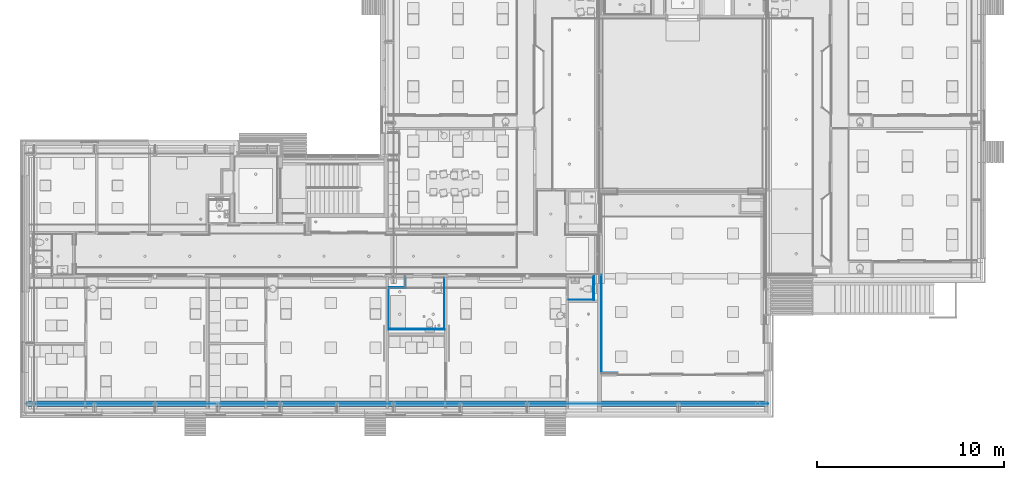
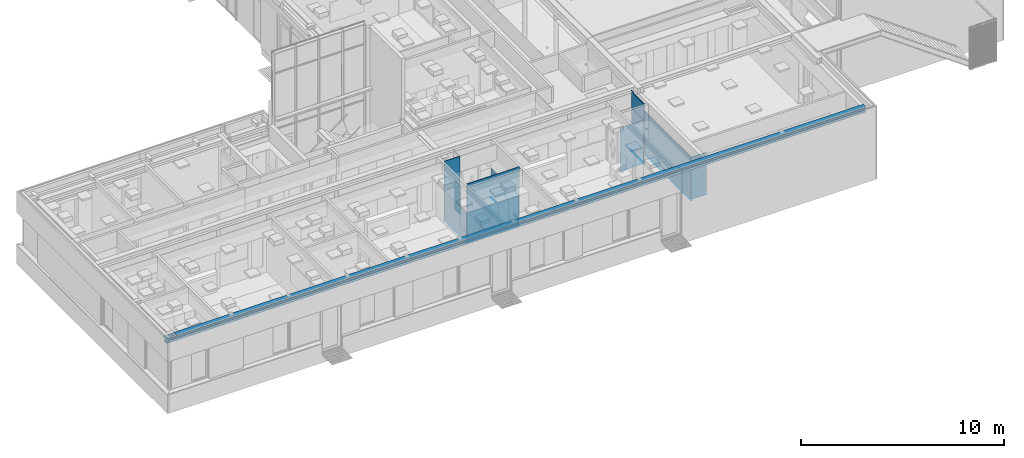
# One storey, part 99 of 347: 24 building element parts, 13 elements without a shape of their own.
"""IFC2X3 building model written with IfcOpenShell, lengths in millimetres."""

from ifc_helpers import new_model, entity, si_unit, converted_unit, derived_unit, money_unit, direction, frame, origin_with_axes, place, context, subcontext, project, spatial, faceted_brep, material, type_object, element, aggregate, save


model = new_model("IFC2X3")

# Units and contexts
model_context = context("Model", 3, precision=0.01, world=origin_with_axes(), true_north=direction((0.0, 1.0)))
plan_context = context("Plan", 3, precision=0.01, world=origin_with_axes(), true_north=direction((0.0, 1.0)))
body_context = subcontext(model_context, "Body", "Model", "MODEL_VIEW")
ifc_project = project(units=[si_unit("LENGTHUNIT", "METRE", prefix="MILLI"), si_unit("AREAUNIT", "SQUARE_METRE"), si_unit("VOLUMEUNIT", "CUBIC_METRE"), converted_unit("PLANEANGLEUNIT", "DEGREE", entity("IfcPlaneAngleMeasure", 0.0174532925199), si_unit("PLANEANGLEUNIT", "RADIAN"), dimensions=[0, 0, 0, 0, 0, 0, 0]), money_unit("EUR"), converted_unit("TIMEUNIT", "Year", entity("IfcTimeMeasure", 31556926.0), si_unit("TIMEUNIT", "SECOND"), dimensions=[0, 0, 1, 0, 0, 0, 0]), si_unit("MASSUNIT", "GRAM", prefix="KILO"), si_unit("THERMODYNAMICTEMPERATUREUNIT", "DEGREE_CELSIUS"), si_unit("LUMINOUSINTENSITYUNIT", "LUMEN"), si_unit("ENERGYUNIT", "JOULE", prefix="MEGA"), derived_unit("THERMALCONDUCTANCEUNIT", [(si_unit("POWERUNIT", "WATT"), 1), (si_unit("LENGTHUNIT", "METRE"), -1), (si_unit("THERMODYNAMICTEMPERATUREUNIT", "KELVIN"), -1)]), derived_unit("SPECIFICHEATCAPACITYUNIT", [(si_unit("ENERGYUNIT", "JOULE"), 1), (si_unit("MASSUNIT", "GRAM", prefix="KILO"), -1), (si_unit("THERMODYNAMICTEMPERATUREUNIT", "KELVIN"), -1)]), derived_unit("MASSDENSITYUNIT", [(si_unit("MASSUNIT", "GRAM", prefix="KILO"), 1), (si_unit("VOLUMEUNIT", "CUBIC_METRE"), -1)])], contexts=[model_context, plan_context])

# Site, building, storey
site_placement = place(None, origin_with_axes())
site = spatial("IfcSite", under=ifc_project, at=site_placement, Name="Site", CompositionType="ELEMENT")
building_placement = place(site_placement, origin_with_axes())
building = spatial("IfcBuilding", under=site, at=building_placement, Name="Naam gebouw", CompositionType="ELEMENT")
storey_placement = place(building_placement, origin_with_axes())
storey = spatial("IfcBuildingStorey", under=building, at=storey_placement, Name="begane grond", CompositionType="ELEMENT", Elevation=0.0)

# Wall, building element parts
wall_type = type_object("IfcWallType", Name="ALG LSW sanitair 100", PredefinedType="NOTDEFINED")
wall_1_placement = place(storey_placement, frame((35295.0, 10850.0, 0.0), z_axis=(0.0, 0.0, 1.0), x_axis=(0.0, 1.0, 0.0)))
wall_1 = element("IfcWall", 1, at=wall_1_placement, inside=storey, type_object=wall_type, Name="22_GF 100 ECO RD V/75.2.A")
ifc_material_1 = material(Name="ALG - LICHTE SCHEIDINGSWAND AFW")
building_element_part_1_placement = place(wall_1_placement, origin_with_axes())
building_element_part_1 = element("IfcBuildingElementPart", 2, at=building_element_part_1_placement, material=ifc_material_1, Name="ALG - LICHTE SCHEIDINGSWAND AFW", context=body_context, shape_type="Brep", body=[
    faceted_brep([(1105.0, 0.0, 3630.0), (1105.0, -12.0, 3630.0), (1275.0, -12.0, 3630.0), (1275.0, 0.0, 3630.0), (1105.0, -12.0, 3560.0), (1105.0, 0.0, 3560.0), (0.0, -12.0, 3560.0), (0.0, -12.0, 0.0), (1212.5, -12.0, 0.0), (1212.5, -12.0, 3560.0), (1275.0, -12.0, 3560.0), (1275.0, 0.0, 3560.0), (1212.5, 0.0, 3560.0), (1212.5, 0.0, 0.0), (0.0, 0.0, 0.0), (0.0, 0.0, 3560.0)], [[[0, 1, 2, 3]], [[4, 1, 0, 5]], [[4, 6, 7, 8, 9, 10, 2, 1]], [[2, 10, 11, 3]], [[5, 0, 3, 11, 12, 13, 14, 15]], [[6, 4, 5, 15]], [[6, 15, 14, 7]], [[8, 7, 14, 13]], [[12, 9, 8, 13]], [[12, 11, 10, 9]]]),
])
ifc_material_2 = material(Name="Hout - Multiplex wbp")
building_element_part_2_placement = place(wall_1_placement, origin_with_axes())
building_element_part_2 = element("IfcBuildingElementPart", 3, at=building_element_part_2_placement, material=ifc_material_2, Name="Hout - Multiplex wbp", context=body_context, shape_type="Brep", body=[
    faceted_brep([(1105.0, -12.0, 3630.0), (1105.0, -30.0, 3630.0), (1275.0, -30.0, 3630.0), (1275.0, -12.0, 3630.0), (1105.0, -30.0, 3560.0), (1105.0, -12.0, 3560.0), (0.0, -30.0, 3560.0), (0.0, -30.0, 0.0), (1212.5, -30.0, 0.0), (1212.5, -30.0, 3560.0), (1275.0, -30.0, 3560.0), (1275.0, -12.0, 3560.0), (1212.5, -12.0, 3560.0), (1212.5, -12.0, 0.0), (0.0, -12.0, 0.0), (0.0, -12.0, 3560.0)], [[[0, 1, 2, 3]], [[4, 1, 0, 5]], [[4, 6, 7, 8, 9, 10, 2, 1]], [[2, 10, 11, 3]], [[5, 0, 3, 11, 12, 13, 14, 15]], [[6, 4, 5, 15]], [[6, 15, 14, 7]], [[8, 7, 14, 13]], [[12, 9, 8, 13]], [[12, 11, 10, 9]]]),
])
aggregate(wall_1, [building_element_part_1, building_element_part_2])

wall_2_placement = place(storey_placement, frame((24175.0, 9290.0, 0.0), z_axis=(0.0, 0.0, 1.0), x_axis=(1.0, 0.0, 0.0)))
wall_2 = element("IfcWall", 4, at=wall_2_placement, inside=storey, type_object=wall_type, Name="22_GF 100 ECO RD V/75.2.A")
building_element_part_3_placement = place(wall_2_placement, origin_with_axes())
building_element_part_3 = element("IfcBuildingElementPart", 5, at=building_element_part_3_placement, material=ifc_material_1, Name="ALG - LICHTE SCHEIDINGSWAND AFW", context=body_context, shape_type="Brep", body=[
    faceted_brep([(3125.0, 0.0, 3560.0), (125.0, 0.0, 3560.0), (125.0, -12.0, 3560.0), (3125.0, -12.0, 3560.0), (3125.0, 0.0, 0.0), (125.0, 0.0, 0.0), (125.0, -12.0, 0.0), (3125.0, -12.0, 0.0)], [[[0, 1, 2, 3]], [[4, 5, 1, 0]], [[2, 1, 5, 6]], [[3, 2, 6, 7]], [[3, 7, 4, 0]], [[7, 6, 5, 4]]]),
])
building_element_part_4_placement = place(wall_2_placement, origin_with_axes())
building_element_part_4 = element("IfcBuildingElementPart", 6, at=building_element_part_4_placement, material=ifc_material_2, Name="Hout - Multiplex wbp", context=body_context, shape_type="Brep", body=[
    faceted_brep([(3125.0, -12.0, 3560.0), (125.0, -12.0, 3560.0), (125.0, -30.0, 3560.0), (3125.0, -30.0, 3560.0), (3125.0, -12.0, 0.0), (125.0, -12.0, 0.0), (125.0, -30.0, 0.0), (3125.0, -30.0, 0.0)], [[[0, 1, 2, 3]], [[4, 5, 1, 0]], [[2, 1, 5, 6]], [[3, 2, 6, 7]], [[3, 7, 4, 0]], [[7, 6, 5, 4]]]),
])
aggregate(wall_2, [building_element_part_3, building_element_part_4])

# Beam, building element parts
beam_type = type_object("IfcBeamType", Name="28 HEB300 300 x 300", PredefinedType="BEAM")
beam_placement = place(storey_placement, frame((4850.0, 5300.0, 3560.00001859), z_axis=(0.0, 0.0, 1.0), x_axis=(0.0, -1.0, 0.0)))
beam = element("IfcBeam", 7, at=beam_placement, inside=storey, type_object=beam_type, Name="28_Balk-x", ObjectType="BEAM")
ifc_material_3 = material(Name="Metaal - Staal C")
building_element_part_5_placement = place(beam_placement, origin_with_axes())
building_element_part_5 = element("IfcBuildingElementPart", 8, at=building_element_part_5_placement, material=ifc_material_3, Name="Metaal - Staal C", context=body_context, shape_type="Brep", body=[
    faceted_brep([(-150.0, 310.0, -1.73937362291e-05), (-150.0, 310.0, -15.000020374), (-150.0, 444.75, -15.000020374), (-150.0, 444.75, -19.0), (-150.0, 0.0, -19.0), (-150.0, 0.0, 0.0), (150.0, 310.0, -1.73937362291e-05), (150.0, 310.0, -15.000020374), (150.0, 444.75, -15.000020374), (150.0, 444.75, -19.0), (5.5, 444.75, -19.0), (-5.5, 444.75, -19.0), (-5.5, 0.0, -19.0), (5.5, 0.0, -19.0), (150.0, 0.0, -19.0), (150.0, 0.0, 0.0)], [[[0, 1, 2, 3, 4, 5]], [[1, 0, 6, 7]], [[8, 2, 1, 7]], [[2, 8, 9, 10, 11, 3]], [[3, 11, 12, 4]], [[5, 4, 12, 13, 14, 15]], [[6, 0, 5, 15]], [[7, 6, 15, 14, 9, 8]], [[10, 9, 14, 13]], [[11, 10, 13, 12]]]),
    faceted_brep([(-150.0, 455.25, -15.000020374), (-150.0, 590.0, -15.000020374), (-150.0, 590.0, -1.73937362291e-05), (-150.0, 39805.0012409, 0.0), (-150.0, 39805.0012409, -19.0), (-150.0, 455.25, -19.0), (150.0, 455.25, -15.000020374), (150.0, 590.0, -15.000020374), (150.0, 590.0, -1.73937362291e-05), (150.0, 39805.0012409, 0.0), (-5.5, 39805.0012409, -19.0), (150.0, 39805.0012409, -19.0), (5.5, 39805.0012409, -19.0), (-5.5, 455.25, -19.0), (5.5, 455.25, -19.0), (150.0, 455.25, -19.0)], [[[0, 1, 2, 3, 4, 5]], [[1, 0, 6, 7]], [[8, 2, 1, 7]], [[2, 8, 9, 3]], [[10, 4, 3, 9, 11, 12]], [[13, 5, 4, 10]], [[6, 0, 5, 13, 14, 15]], [[7, 6, 15, 11, 9, 8]], [[15, 14, 12, 11]], [[14, 13, 10, 12]]]),
])
building_element_part_6_placement = place(beam_placement, origin_with_axes())
building_element_part_6 = element("IfcBuildingElementPart", 9, at=building_element_part_6_placement, material=ifc_material_3, Name="Metaal - Staal C", context=body_context, shape_type="Brep", body=[
    faceted_brep([(-150.0, 39805.0012409, -281.0), (-150.0, 39805.0012409, -300.0), (-150.0, 0.0, -300.0), (-150.0, 0.0, -281.0), (-5.5, 39805.0012409, -281.0), (5.5, 39805.0012409, -281.0), (150.0, 39805.0012409, -281.0), (150.0, 39805.0012409, -300.0), (150.0, 0.0, -300.0), (150.0, 0.0, -281.0), (5.5, 0.0, -281.0), (-5.5, 0.0, -281.0)], [[[0, 1, 2, 3]], [[0, 4, 5, 6, 7, 1]], [[1, 7, 8, 2]], [[3, 2, 8, 9, 10, 11]], [[4, 0, 3, 11]], [[5, 4, 11, 10]], [[6, 5, 10, 9]], [[7, 6, 9, 8]]]),
])
building_element_part_7_placement = place(beam_placement, origin_with_axes())
building_element_part_7 = element("IfcBuildingElementPart", 10, at=building_element_part_7_placement, material=ifc_material_3, Name="Metaal - Staal C", context=body_context, shape_type="Brep", body=[
    faceted_brep([(-5.5, 310.0, -280.000018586), (-5.5, 590.0, -280.000018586), (-5.5, 590.0, -265.000019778), (-5.5, 455.25, -265.000019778), (-5.5, 455.25, -19.0), (-5.5, 39805.0012409, -19.0), (-5.5, 39805.0012409, -281.0), (-5.5, 0.0, -281.0), (-5.5, 0.0, -19.0), (-5.5, 444.75, -19.0), (-5.5, 444.75, -265.000019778), (-5.5, 310.0, -265.000019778), (5.5, 310.0, -280.000018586), (5.5, 590.0, -280.000018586), (5.5, 590.0, -265.000019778), (5.5, 455.25, -265.000019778), (5.5, 455.25, -19.0), (5.5, 39805.0012409, -19.0), (5.5, 39805.0012409, -281.0), (5.5, 0.0, -281.0), (5.5, 0.0, -19.0), (5.5, 444.75, -19.0), (5.5, 444.75, -265.000019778), (5.5, 310.0, -265.000019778)], [[[0, 1, 2, 3, 4, 5, 6, 7, 8, 9, 10, 11]], [[1, 0, 12, 13]], [[2, 1, 13, 14]], [[3, 2, 14, 15]], [[3, 15, 16, 4]], [[4, 16, 17, 5]], [[18, 6, 5, 17]], [[7, 6, 18, 19]], [[8, 7, 19, 20]], [[21, 9, 8, 20]], [[22, 10, 9, 21]], [[11, 10, 22, 23]], [[0, 11, 23, 12]], [[23, 22, 21, 20, 19, 18, 17, 16, 15, 14, 13, 12]]]),
])
aggregate(beam, [building_element_part_5, building_element_part_6, building_element_part_7])

# Proxy, building element parts
building_element_proxy_type_1 = type_object("IfcBuildingElementProxyType", Name="wandtegels 150x300 2600+ 10 x 2600", PredefinedType="NOTDEFINED")
proxy_1_placement = place(storey_placement, frame((35285.0, 10860.0, 0.0), z_axis=(0.0, 0.0, 1.0), x_axis=(0.0, 1.0, 0.0)))
proxy_1 = element("IfcBuildingElementProxy", 11, at=proxy_1_placement, inside=storey, type_object=building_element_proxy_type_1, Name="42_59 wandtegels keramisch")
ifc_material_4 = material(Name="48 vloeivloer Bolidt")
building_element_part_8_placement = place(proxy_1_placement, origin_with_axes())
building_element_part_8 = element("IfcBuildingElementPart", 12, at=building_element_part_8_placement, material=ifc_material_4, Name="48 vloeivloer Bolidt", context=body_context, shape_type="Brep", body=[
    faceted_brep([(10.0000089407, 10.0000089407, 50.0000059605), (10.0000089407, 8.00001490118, 50.0000059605), (1184.49999702, 8.00001490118, 50.0000059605), (1184.49999702, 10.0000089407, 50.0000059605), (10.0000089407, 8.00001490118, 0.0), (10.0000089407, 10.0000089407, 0.0), (1184.49999702, 8.00001490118, 0.0), (1184.49999702, 10.0000089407, 0.0)], [[[0, 1, 2, 3]], [[4, 1, 0, 5]], [[1, 4, 6, 2]], [[7, 3, 2, 6]], [[5, 0, 3, 7]], [[4, 5, 7, 6]]]),
])
ifc_material_5 = material(Name="Tegels - Wand")
building_element_part_9_placement = place(proxy_1_placement, origin_with_axes())
building_element_part_9 = element("IfcBuildingElementPart", 13, at=building_element_part_9_placement, material=ifc_material_5, Name="Tegels - Wand", context=body_context, shape_type="Brep", body=[
    faceted_brep([(10.0, 10.0, 2600.0), (10.0, 0.0, 2600.0), (1192.50001192, 0.0, 2600.0), (1192.50001192, 10.0, 2600.0), (10.0, 0.0, 50.0), (10.0, 10.0, 50.0), (10.0, 8.00001490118, 50.0), (1192.50001192, 0.0, 50.0000059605), (1192.50001192, 10.0, 50.0000059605), (1192.50001192, 8.00001490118, 50.0000059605)], [[[0, 1, 2, 3]], [[4, 1, 0, 5, 6]], [[1, 4, 7, 2]], [[8, 3, 2, 7, 9]], [[5, 0, 3, 8]], [[6, 5, 8, 9]], [[4, 6, 9, 7]]]),
])
aggregate(proxy_1, [building_element_part_8, building_element_part_9])

proxy_2_placement = place(storey_placement, frame((33950.0, 10860.0, 0.0), z_axis=(0.0, 0.0, 1.0), x_axis=(1.0, 0.0, 0.0)))
proxy_2 = element("IfcBuildingElementProxy", 14, at=proxy_2_placement, inside=storey, type_object=building_element_proxy_type_1, Name="42_58 wandtegels keramisch")
building_element_part_10_placement = place(proxy_2_placement, origin_with_axes())
building_element_part_10 = element("IfcBuildingElementPart", 15, at=building_element_part_10_placement, material=ifc_material_4, Name="48 vloeivloer Bolidt", context=body_context, shape_type="Brep", body=[
    faceted_brep([(1326.99999702, 8.00001490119, 50.0000059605), (1326.99999702, 10.0000089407, 50.0000059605), (0.0, 10.0000089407, 50.0000059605), (0.0, 8.00001490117, 50.0000059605), (1326.99999702, 10.0000089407, 0.0), (1326.99999702, 8.00001490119, 0.0), (0.0, 10.0000089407, 0.0), (0.0, 8.00001490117, 0.0)], [[[0, 1, 2, 3]], [[4, 1, 0, 5]], [[1, 4, 6, 2]], [[2, 6, 7, 3]], [[5, 0, 3, 7]], [[4, 5, 7, 6]]]),
])
building_element_part_11_placement = place(proxy_2_placement, origin_with_axes())
building_element_part_11 = element("IfcBuildingElementPart", 16, at=building_element_part_11_placement, material=ifc_material_5, Name="Tegels - Wand", context=body_context, shape_type="Brep", body=[
    faceted_brep([(1335.00001192, 0.0, 2600.0), (1335.00001192, 10.0, 2600.0), (0.0, 10.0, 2600.0), (0.0, 0.0, 2600.0), (1335.00001192, 10.0, 50.0000059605), (1335.00001192, 0.0, 50.0000059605), (1335.00001192, 8.00001490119, 50.0000059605), (0.0, 10.0, 50.0), (0.0, 0.0, 50.0), (0.0, 8.00001490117, 50.0000059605)], [[[0, 1, 2, 3]], [[4, 1, 0, 5, 6]], [[1, 4, 7, 2]], [[8, 3, 2, 7, 9]], [[5, 0, 3, 8]], [[6, 5, 8, 9]], [[4, 6, 9, 7]]]),
])
aggregate(proxy_2, [building_element_part_10, building_element_part_11])

building_element_proxy_type_2 = type_object("IfcBuildingElementProxyType", Name="wandtegels 150x300 1800+ 10 x 1800", PredefinedType="NOTDEFINED")
proxy_3_placement = place(storey_placement, frame((27290.0, 9300.0, 0.0), z_axis=(0.0, 0.0, 1.0), x_axis=(0.0, 1.0, 0.0)))
proxy_3 = element("IfcBuildingElementProxy", 17, at=proxy_3_placement, inside=storey, type_object=building_element_proxy_type_2, Name="42_61 wandtegels keramisch")
building_element_part_12_placement = place(proxy_3_placement, origin_with_axes())
building_element_part_12 = element("IfcBuildingElementPart", 18, at=building_element_part_12_placement, material=ifc_material_4, Name="48 vloeivloer Bolidt", context=body_context, shape_type="Brep", body=[
    faceted_brep([(10.0000069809, 10.0000069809, 49.9999904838), (10.0000069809, 7.99998912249, 49.9999904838), (2744.50000671, 7.99998912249, 49.9999904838), (2744.50000671, 10.0000069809, 49.9999904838), (10.0000069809, 7.99998912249, 0.0), (10.0000069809, 10.0000069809, 0.0), (2744.50000671, 7.99998912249, 0.0), (2744.50000671, 10.0000069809, 0.0)], [[[0, 1, 2, 3]], [[4, 1, 0, 5]], [[1, 4, 6, 2]], [[7, 3, 2, 6]], [[5, 0, 3, 7]], [[4, 5, 7, 6]]]),
])
building_element_part_13_placement = place(proxy_3_placement, origin_with_axes())
building_element_part_13 = element("IfcBuildingElementPart", 19, at=building_element_part_13_placement, material=ifc_material_5, Name="Tegels - Wand", context=body_context, shape_type="Brep", body=[
    faceted_brep([(10.0000071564, 10.0000071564, 1799.99997928), (10.0000071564, -1.84472881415e-06, 1799.99997928), (2752.49999767, -1.84472881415e-06, 1799.99997928), (2752.49999767, 10.0000071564, 1799.99997928), (10.0000071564, -1.84472881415e-06, 50.0), (10.0000071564, 10.0000071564, 50.0), (10.0000071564, 7.99998912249, 50.0), (2752.49999767, -1.84472881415e-06, 49.9999904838), (2752.49999767, 7.99998912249, 49.9999904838), (2752.49999767, 10.0000071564, 49.9999904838)], [[[0, 1, 2, 3]], [[4, 1, 0, 5, 6]], [[1, 4, 7, 2]], [[7, 8, 9, 3, 2]], [[5, 0, 3, 9]], [[6, 5, 9, 8]], [[4, 6, 8, 7]]]),
])
aggregate(proxy_3, [building_element_part_12, building_element_part_13])

proxy_4_placement = place(storey_placement, frame((24310.0000066, 9300.0, 0.0), z_axis=(0.0, 0.0, 1.0), x_axis=(1.0, 0.0, 0.0)))
proxy_4 = element("IfcBuildingElementProxy", 20, at=proxy_4_placement, inside=storey, type_object=building_element_proxy_type_2, Name="42_60 wandtegels keramisch")
building_element_part_14_placement = place(proxy_4_placement, origin_with_axes())
building_element_part_14 = element("IfcBuildingElementPart", 21, at=building_element_part_14_placement, material=ifc_material_4, Name="48 vloeivloer Bolidt", context=body_context, shape_type="Brep", body=[
    faceted_brep([(10.0000069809, 10.0000069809, 0.0), (10.0000069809, 10.0000069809, 49.9999904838), (2972.00001208, 10.0000069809, 49.9999904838), (2972.00001208, 10.0000069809, 0.0), (10.0000069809, 7.99998912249, 49.9999904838), (10.0000069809, 7.99998912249, 0.0), (2972.00001208, 7.99998912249, 49.9999904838), (2972.00001208, 7.99998912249, 0.0)], [[[0, 1, 2, 3]], [[4, 1, 0, 5]], [[1, 4, 6, 2]], [[7, 3, 2, 6]], [[5, 0, 3, 7]], [[4, 5, 7, 6]]]),
])
building_element_part_15_placement = place(proxy_4_placement, origin_with_axes())
building_element_part_15 = element("IfcBuildingElementPart", 22, at=building_element_part_15_placement, material=ifc_material_5, Name="Tegels - Wand", context=body_context, shape_type="Brep", body=[
    faceted_brep([(10.0000071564, 10.0000071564, 50.0), (10.0000071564, 10.0000071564, 1799.99997928), (2980.00000305, 10.0000071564, 1799.99997928), (2980.00000305, 10.0000071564, 49.9999904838), (10.0000071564, -1.84472881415e-06, 1799.99997928), (10.0000071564, 7.99998912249, 50.0), (10.0000071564, -1.84472881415e-06, 50.0), (2980.00000305, -1.84472881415e-06, 1799.99997928), (2980.00000305, -1.84472881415e-06, 49.9999904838), (2980.00000305, 7.99998912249, 49.9999904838)], [[[0, 1, 2, 3]], [[4, 1, 0, 5, 6]], [[1, 4, 7, 2]], [[7, 8, 9, 3, 2]], [[5, 0, 3, 9]], [[6, 5, 9, 8]], [[4, 6, 8, 7]]]),
])
aggregate(proxy_4, [building_element_part_14, building_element_part_15])

proxy_5_placement = place(storey_placement, frame((24310.0000066, 11489.9999515, 0.0), z_axis=(0.0, 0.0, 1.0), x_axis=(0.0, -1.0, 0.0)))
proxy_5 = element("IfcBuildingElementProxy", 23, at=proxy_5_placement, inside=storey, type_object=building_element_proxy_type_2, Name="42_59 wandtegels keramisch")
building_element_part_16_placement = place(proxy_5_placement, origin_with_axes())
building_element_part_16 = element("IfcBuildingElementPart", 24, at=building_element_part_16_placement, material=ifc_material_4, Name="48 vloeivloer Bolidt", context=body_context, shape_type="Brep", body=[
    faceted_brep([(10.0000069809, 10.0000069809, 0.0), (10.0000069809, 10.0000069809, 49.9999904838), (2181.99997017, 10.0000069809, 49.9999904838), (2181.99997017, 10.0000069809, 0.0), (10.0000069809, 7.99998912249, 49.9999904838), (10.0000069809, 7.99998912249, 0.0), (2181.99997017, 7.99998912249, 49.9999904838), (2181.99997017, 7.99998912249, 0.0)], [[[0, 1, 2, 3]], [[4, 1, 0, 5]], [[1, 4, 6, 2]], [[7, 3, 2, 6]], [[5, 0, 3, 7]], [[4, 5, 7, 6]]]),
])
building_element_part_17_placement = place(proxy_5_placement, origin_with_axes())
building_element_part_17 = element("IfcBuildingElementPart", 25, at=building_element_part_17_placement, material=ifc_material_5, Name="Tegels - Wand", context=body_context, shape_type="Brep", body=[
    faceted_brep([(10.0000071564, 10.0000071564, 50.0), (10.0000071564, 10.0000071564, 1799.99997928), (2189.99996114, 10.0000071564, 1799.99997928), (2189.99996114, 10.0000071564, 49.9999904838), (10.0000071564, -1.84472881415e-06, 1799.99997928), (10.0000071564, 7.99998912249, 50.0), (10.0000071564, -1.84472881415e-06, 50.0), (2189.99996114, -1.84472881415e-06, 1799.99997928), (2189.99996114, -1.84472881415e-06, 49.9999904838), (2189.99996114, 7.99998912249, 49.9999904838)], [[[0, 1, 2, 3]], [[4, 1, 0, 5, 6]], [[1, 4, 7, 2]], [[7, 8, 9, 3, 2]], [[5, 0, 3, 9]], [[6, 5, 9, 8]], [[4, 6, 8, 7]]]),
])
aggregate(proxy_5, [building_element_part_16, building_element_part_17])

# Proxy, building element part
proxy_6_placement = place(storey_placement, frame((25210.0000046, 11489.9999515, 0.0), z_axis=(0.0, 0.0, 1.0), x_axis=(-1.0, 0.0, 0.0)))
proxy_6 = element("IfcBuildingElementProxy", 26, at=proxy_6_placement, inside=storey, type_object=building_element_proxy_type_2, Name="42_58 wandtegels keramisch")
building_element_part_18_placement = place(proxy_6_placement, origin_with_axes())
building_element_part_18 = element("IfcBuildingElementPart", 27, at=building_element_part_18_placement, material=ifc_material_5, Name="Tegels - Wand", context=body_context, shape_type="Brep", body=[
    faceted_brep([(1.84472881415e-06, 10.0000071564, 1799.99997928), (1.84472881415e-06, -1.84472881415e-06, 1799.99997928), (900.000007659, -1.84472881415e-06, 1799.99997928), (900.000007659, 10.0000071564, 1799.99997928), (1.84472881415e-06, -1.84472881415e-06, 50.0), (1.84472881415e-06, 10.0000071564, 50.0), (1.84472881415e-06, 7.99998912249, 50.0), (900.000007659, -1.84472881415e-06, 49.9999904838), (900.000007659, 10.0000071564, 49.9999904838), (900.000007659, 7.99998912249, 49.9999904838)], [[[0, 1, 2, 3]], [[4, 1, 0, 5, 6]], [[1, 4, 7, 2]], [[8, 3, 2, 7, 9]], [[5, 0, 3, 8]], [[6, 5, 8, 9]], [[4, 6, 9, 7]]]),
])
aggregate(proxy_6, [building_element_part_18])

proxy_7_placement = place(storey_placement, frame((25210.0000046, 12052.499988, 0.0), z_axis=(0.0, 0.0, 1.0), x_axis=(0.0, -1.0, 0.0)))
proxy_7 = element("IfcBuildingElementProxy", 28, at=proxy_7_placement, inside=storey, type_object=building_element_proxy_type_2, Name="42_57 wandtegels keramisch")
building_element_part_19_placement = place(proxy_7_placement, origin_with_axes())
building_element_part_19 = element("IfcBuildingElementPart", 29, at=building_element_part_19_placement, material=ifc_material_5, Name="Tegels - Wand", context=body_context, shape_type="Brep", body=[
    faceted_brep([(10.0000071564, 10.0000071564, 50.0), (10.0000071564, 10.0000071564, 1799.99997928), (572.500035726, 10.0000071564, 1799.99997928), (572.500035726, 10.0000071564, 49.9999904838), (10.0000071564, -1.84472881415e-06, 1799.99997928), (10.0000071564, 7.99998912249, 50.0), (10.0000071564, -1.84472881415e-06, 50.0), (572.500035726, -1.84472881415e-06, 1799.99997928), (572.500035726, 7.99998912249, 49.9999904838), (572.500035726, -1.84472881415e-06, 49.9999904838)], [[[0, 1, 2, 3]], [[4, 1, 0, 5, 6]], [[1, 4, 7, 2]], [[8, 3, 2, 7, 9]], [[5, 0, 3, 8]], [[6, 5, 8, 9]], [[4, 6, 9, 7]]]),
])
aggregate(proxy_7, [building_element_part_19])

# Wall, building element parts
wall_3_placement = place(storey_placement, frame((24300.0, 11599.999972, 0.0), z_axis=(0.0, 0.0, 1.0), x_axis=(1.0, 0.0, 0.0)))
wall_3 = element("IfcWall", 30, at=wall_3_placement, inside=storey, type_object=wall_type, Name="22_GF 100 ECO RD V/75.2.A")
building_element_part_20_placement = place(wall_3_placement, origin_with_axes())
building_element_part_20 = element("IfcBuildingElementPart", 31, at=building_element_part_20_placement, material=ifc_material_2, Name="Hout - Multiplex wbp", context=body_context, shape_type="Brep", body=[
    faceted_brep([(0.0, -70.0, 3560.0), (888.0, -70.0, 3560.0), (888.0, -70.0, 0.0), (0.0, -70.0, 0.0), (888.0, -88.0, 3560.0), (0.0, -88.0, 3560.0), (888.0, -88.0, 0.0), (0.0, -88.0, 0.0)], [[[0, 1, 2, 3]], [[4, 1, 0, 5]], [[1, 4, 6, 2]], [[2, 6, 7, 3]], [[5, 0, 3, 7]], [[4, 5, 7, 6]]]),
])
building_element_part_21_placement = place(wall_3_placement, origin_with_axes())
building_element_part_21 = element("IfcBuildingElementPart", 32, at=building_element_part_21_placement, material=ifc_material_1, Name="ALG - LICHTE SCHEIDINGSWAND AFW", context=body_context, shape_type="Brep", body=[
    faceted_brep([(0.0, -88.0, 3560.0), (900.0, -88.0, 3560.0), (900.0, -88.0, 0.0), (0.0, -88.0, 0.0), (900.0, -100.0, 3560.0), (0.0, -100.0, 3560.0), (900.0, -100.0, 0.0), (0.0, -100.0, 0.0)], [[[0, 1, 2, 3]], [[4, 1, 0, 5]], [[1, 4, 6, 2]], [[2, 6, 7, 3]], [[5, 0, 3, 7]], [[4, 5, 7, 6]]]),
])
aggregate(wall_3, [building_element_part_20, building_element_part_21])

# Proxy, building element part
building_element_proxy_type_3 = type_object("IfcBuildingElementProxyType", Name="Viltonwand 2600+ 33 x 2600", PredefinedType="NOTDEFINED")
proxy_8_placement = place(storey_placement, frame((36575.0, 6915.00953644, 0.0), z_axis=(0.0, 0.0, 1.0), x_axis=(-1.0, 0.0, 0.0)))
proxy_8 = element("IfcBuildingElementProxy", 33, at=proxy_8_placement, inside=storey, type_object=building_element_proxy_type_3, Name="42_49 wandtegels keramisch")
ifc_material_6 = material(Name="Vilton")
building_element_part_22_placement = place(proxy_8_placement, origin_with_axes())
building_element_part_22 = element("IfcBuildingElementPart", 34, at=building_element_part_22_placement, material=ifc_material_6, Name="Vilton", context=body_context, shape_type="Brep", body=[
    faceted_brep([(870.00000596, -33.0, 50.0000059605), (870.00000596, -33.0, 2600.0), (0.0, -33.0, 2600.0), (0.0, -33.0, 50.0), (870.00000596, 0.0, 2600.0), (870.00000596, -5.00000596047, 50.0000059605), (870.00000596, 0.0, 50.0000059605), (0.0, 0.0, 2600.0), (0.0, 0.0, 50.0), (0.0, -5.00000596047, 50.0000059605)], [[[0, 1, 2, 3]], [[4, 1, 0, 5, 6]], [[1, 4, 7, 2]], [[3, 2, 7, 8, 9]], [[5, 0, 3, 9]], [[6, 5, 9, 8]], [[4, 6, 8, 7]]]),
])
aggregate(proxy_8, [building_element_part_22])

# Proxy, building element parts
proxy_9_placement = place(storey_placement, frame((35705.0, 6915.00953644, 0.0), z_axis=(0.0, 0.0, 1.0), x_axis=(0.0, 1.0, 0.0)))
proxy_9 = element("IfcBuildingElementProxy", 35, at=proxy_9_placement, inside=storey, type_object=building_element_proxy_type_3, Name="42_50 wandtegels keramisch")
ifc_material_7 = material(Name="Kunststof - massief")
building_element_part_23_placement = place(proxy_9_placement, origin_with_axes())
building_element_part_23 = element("IfcBuildingElementPart", 36, at=building_element_part_23_placement, material=ifc_material_7, Name="Kunststof - massief", context=body_context, shape_type="Brep", body=[
    faceted_brep([(5.00000596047, 1.78814119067e-05, 50.0000059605), (5.00000596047, -5.00000596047, 50.0000059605), (5277.49048144, -5.00000596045, 50.0000059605), (5277.49048144, 1.78814261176e-05, 50.0000059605), (5.00000596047, -5.00000596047, 0.0), (5.00000596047, 1.78814119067e-05, 0.0), (5277.49048144, -5.00000596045, 0.0), (5277.49048144, 1.78814261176e-05, 0.0)], [[[0, 1, 2, 3]], [[4, 1, 0, 5]], [[1, 4, 6, 2]], [[7, 3, 2, 6]], [[5, 0, 3, 7]], [[4, 5, 7, 6]]]),
])
building_element_part_24_placement = place(proxy_9_placement, origin_with_axes())
building_element_part_24 = element("IfcBuildingElementPart", 37, at=building_element_part_24_placement, material=ifc_material_6, Name="Vilton", context=body_context, shape_type="Brep", body=[
    faceted_brep([(33.0, 0.0, 2600.0), (33.0, -33.0, 2600.0), (5305.49047548, -33.0, 2600.0), (5305.49047548, 0.0, 2600.0), (33.0, -33.0, 50.0), (33.0, 0.0, 50.0), (33.0, -5.00000596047, 50.0), (5305.49047548, -33.0, 50.0000059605), (5305.49047548, 0.0, 50.0000059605), (5305.49047548, -5.00000596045, 50.0000059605)], [[[0, 1, 2, 3]], [[4, 1, 0, 5, 6]], [[1, 4, 7, 2]], [[8, 3, 2, 7, 9]], [[5, 0, 3, 8]], [[6, 5, 8, 9]], [[4, 6, 9, 7]]]),
])
aggregate(proxy_9, [building_element_part_23, building_element_part_24])

save(model, "model.ifc")
